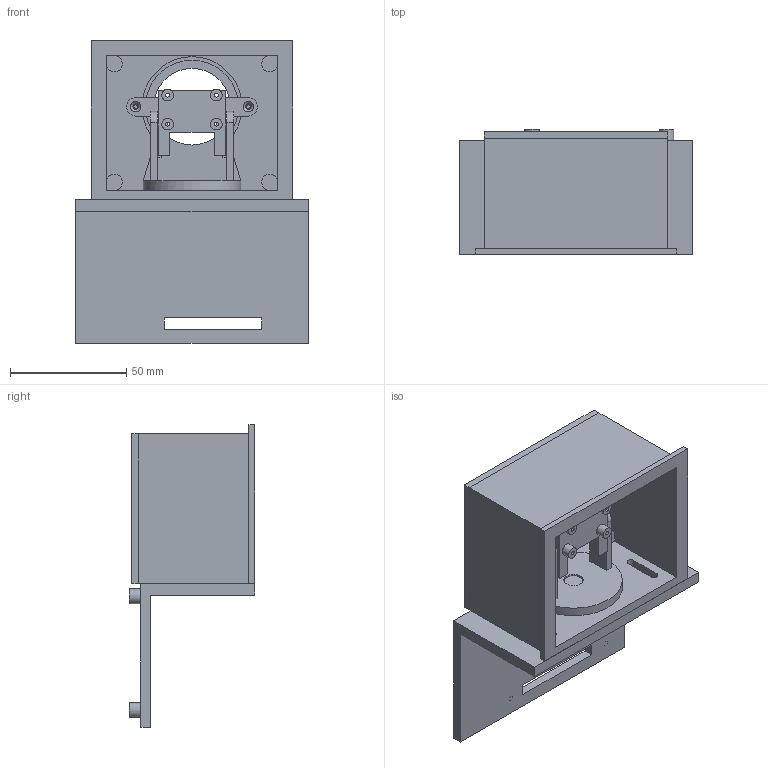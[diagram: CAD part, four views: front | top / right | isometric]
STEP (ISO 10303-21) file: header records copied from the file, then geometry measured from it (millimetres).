
FILE_DESCRIPTION(('Open CASCADE Model'),'2;1');
FILE_NAME('Open CASCADE Shape Model','2026-10-05T16:07:19',('Author'),( 'Open CASCADE'),'Open CASCADE STEP processor 7.9','Open CASCADE 7.9' ,'Unknown');
FILE_SCHEMA(('AUTOMOTIVE_DESIGN { 1 0 10303 214 1 1 1 1 }'));
Length unit declared in the file: millimetre
Products named in the file (7): wth_window_mount_v2; base_pi_mount; hood; camera_yoke; camera_cradle; screen_lid; screen_retainer
Assembly tree (6 placements, depth 2):
  wth_window_mount_v2
    base_pi_mount
    hood
    camera_yoke
    camera_cradle
    screen_lid
    screen_retainer
Bounding box: 100 x 54 x 130.5 mm (x, y, z)
Volume: 114986.6 mm3; surface area: 75642.3 mm2
Topology: 6 solids, 6 shells, 255 faces, 648 edges, 424 vertices
Faces by surface type: plane 187, cylinder 61, cone 7
Full cylindrical faces by diameter (mm): 1.7 x6, 2.2 x4, 2.4 x2, 2.6 x6, 3.4 x9, 5 x4, 6.4 x4, 7.8 x1, 8.3 x1, 33 x1, 42 x1
Entity records: 16380 total; most frequent: CARTESIAN_POINT 2894, DIRECTION 2529, LINE 1629, VECTOR 1629, ORIENTED_EDGE 1296, PCURVE 1296, DEFINITIONAL_REPRESENTATION 1296, EDGE_CURVE 648
